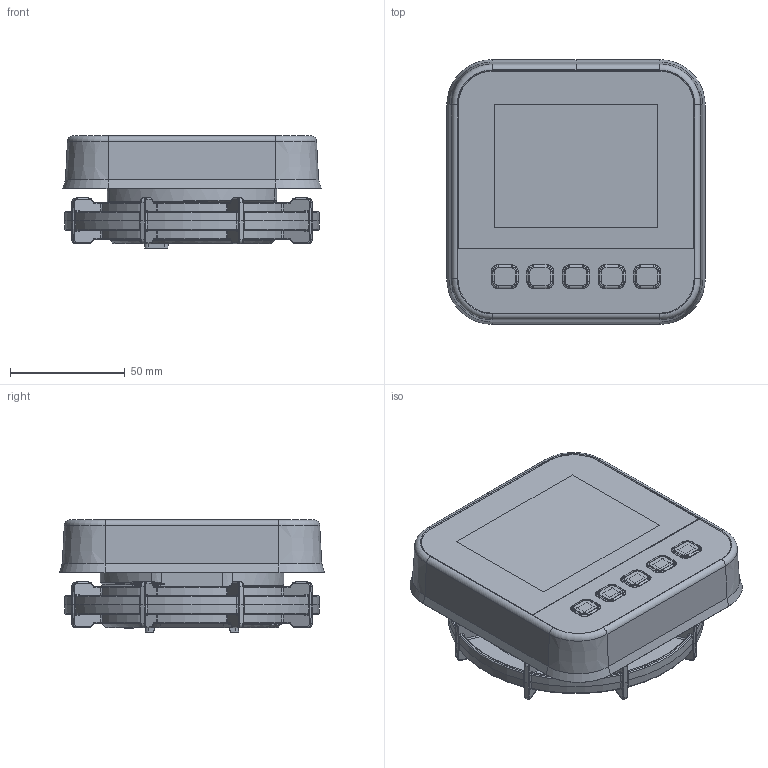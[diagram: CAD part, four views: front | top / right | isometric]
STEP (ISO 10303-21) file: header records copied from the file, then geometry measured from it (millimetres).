
FILE_DESCRIPTION (( 'STEP AP214' ), '1' );
FILE_NAME ('E050 Asm.STEP', '2019-03-29T13:55:03', ( '' ), ( '' ), 'SwSTEP 2.0', 'SolidWorks 2019', '' );
FILE_SCHEMA (( 'AUTOMOTIVE_DESIGN' ));
Length unit declared in the file: millimetre
Products named in the file (1): E050 Asm
Bounding box: 112.39 x 115.14 x 49.21 mm (x, y, z)
Volume: 396775.3 mm3; surface area: 69884.8 mm2
Topology: 2 solids, 7 shells, 2023 faces, 4910 edges, 2891 vertices
Faces by surface type: bspline 873, plane 435, cylinder 307, torus 209, cone 133, sphere 66
Full cylindrical faces by diameter (mm): 1.56 x18, 80.44 x1
Entity records: 127156 total; most frequent: CARTESIAN_POINT 85425, ORIENTED_EDGE 9508, DIRECTION 6804, EDGE_CURVE 4754, VERTEX_POINT 2867, AXIS2_PLACEMENT_3D 2706, EDGE_LOOP 2147, FACE_OUTER_BOUND 2061
